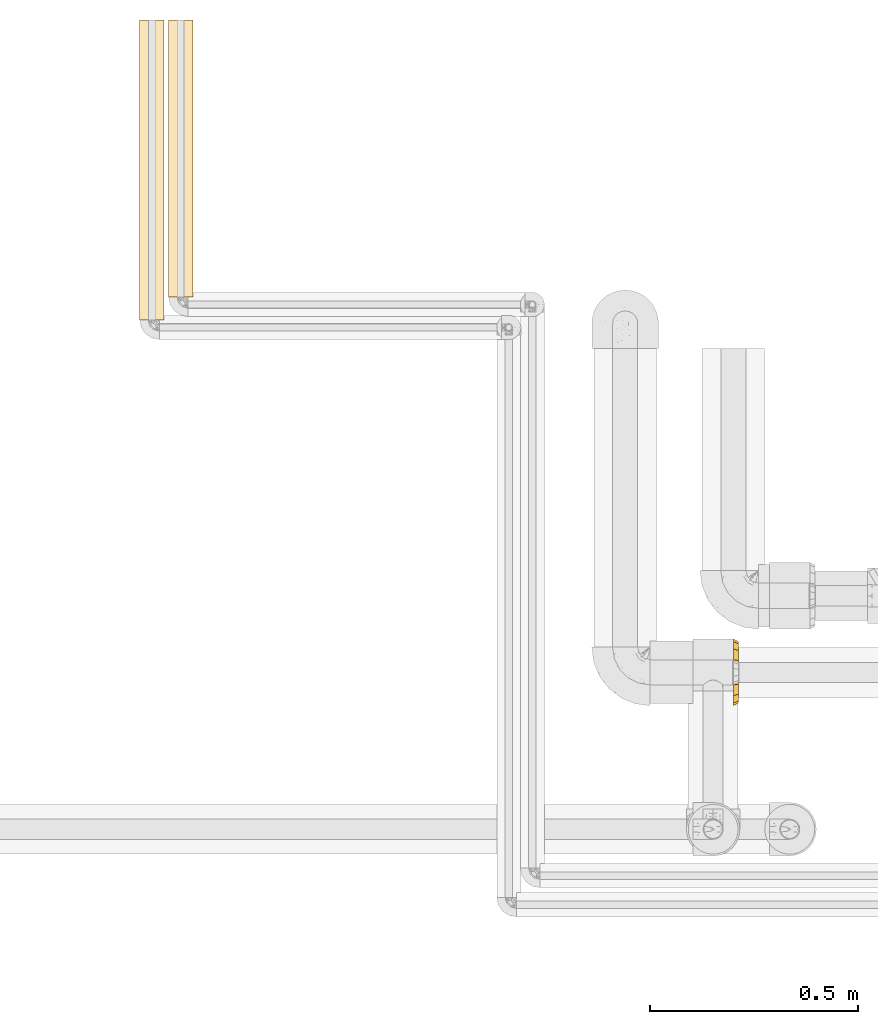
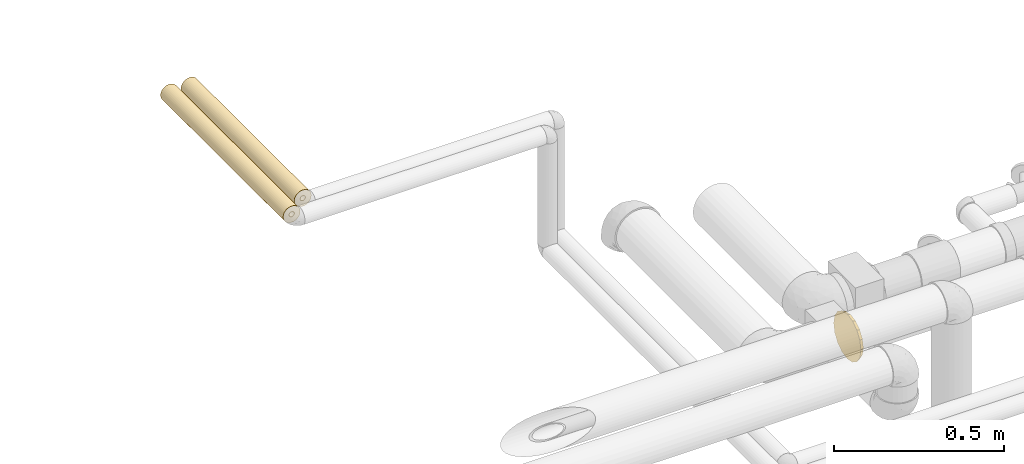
# One storey, part 22 of 83: 3 coverings.
"""IFC2X3 building model written with IfcOpenShell, lengths in millimetres."""

from ifc_helpers import new_model, entity, si_unit, converted_unit, derived_unit, direction, frame, origin_with_axes, place, context, subcontext, project, spatial, open_shell, faceted_brep, surface_model, source, transform, mapped, element, save


model = new_model("IFC2X3")

# Units and contexts
model_context = context("Model", 3, precision=0.01, world=frame((0.0, 4.29681676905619e-09, 0.0)), true_north=direction((4.01073788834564e-13, 1.0)))
plan_context = context("Plan", 3, precision=0.01, world=frame((0.0, 4.29681676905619e-09, 0.0)), true_north=direction((4.01073788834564e-13, 1.0)))
body_context = subcontext(model_context, "Body", "Model", "MODEL_VIEW")
ifc_project = project(units=[converted_unit("PLANEANGLEUNIT", "DEGREE", entity("IfcPositiveLengthMeasure", 0.0174532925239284), si_unit("PLANEANGLEUNIT", "RADIAN"), dimensions=[0, 0, 0, 0, 0, 0, 0]), si_unit("AREAUNIT", "SQUARE_METRE"), si_unit("LENGTHUNIT", "METRE", prefix="MILLI"), si_unit("MASSUNIT", "GRAM", prefix="KILO"), si_unit("POWERUNIT", "WATT"), si_unit("PRESSUREUNIT", "PASCAL"), si_unit("FORCEUNIT", "NEWTON", prefix="KILO"), si_unit("ELECTRICVOLTAGEUNIT", "VOLT"), si_unit("ELECTRICCURRENTUNIT", "AMPERE"), si_unit("THERMODYNAMICTEMPERATUREUNIT", "DEGREE_CELSIUS"), si_unit("TIMEUNIT", "SECOND"), si_unit("VOLUMEUNIT", "CUBIC_METRE"), derived_unit("LINEARVELOCITYUNIT", [(si_unit("LENGTHUNIT", "METRE"), 1), (si_unit("TIMEUNIT", "SECOND"), -1)]), derived_unit("VOLUMETRICFLOWRATEUNIT", [(si_unit("VOLUMEUNIT", "CUBIC_METRE"), 1), (si_unit("TIMEUNIT", "SECOND"), -1)]), derived_unit("THERMALTRANSMITTANCEUNIT", [(si_unit("POWERUNIT", "WATT"), 1), (si_unit("THERMODYNAMICTEMPERATUREUNIT", "KELVIN"), -1), (si_unit("AREAUNIT", "SQUARE_METRE"), -1)]), derived_unit("SOUNDPRESSUREUNIT", [(si_unit("PRESSUREUNIT", "PASCAL"), 1)])], contexts=[model_context, plan_context])

# Site, building, storey
site_placement = place(None, frame((0.0, -4.29681676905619e-09, 0.0), z_axis=(0.0, 0.0, 1.0), x_axis=(1.0, 0.0, 0.0)))
site = spatial("IfcSite", under=ifc_project, at=site_placement, Name="ENGM", CompositionType="ELEMENT")
building_placement = place(site_placement, frame((0.0, 4.29681676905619e-09, 0.0), z_axis=(0.0, 0.0, 1.0), x_axis=(1.0, 0.0, 0.0)))
building = spatial("IfcBuilding", under=site, at=building_placement, Name="TI", CompositionType="ELEMENT")
storey_placement = place(building_placement, frame((0.0, 0.0, 204000.0), z_axis=(0.0, 0.0, 1.0), x_axis=(1.0, 0.0, 0.0)))
storey = spatial("IfcBuildingStorey", under=building, at=storey_placement, Name="Nivå D", CompositionType="ELEMENT", Elevation=204000.0)

# Coverings
shared_shape = source(origin_with_axes(), body_context, "Body", "SurfaceModel", [
    surface_model("IfcShellBasedSurfaceModel", [(0.0, -74.09514, -30.69121), (0.0, 30.69121, -74.09514), (0.0, -56.70997, -56.70997), (12.0, -28.39511, -68.55186), (12.0, 0.0, -74.2), (12.0, -52.46732, -52.46732), (12.0, 68.55186, -28.39511), (12.0, 74.2, 0.0), (12.0, 52.46732, -52.46732), (0.0, 30.69121, 74.09514), (12.0, 17.95943, 70.62765), (12.0, 28.39511, 68.55186), (12.0, 0.0, 74.2), (0.0, 15.34561, 77.14757), (0.0, 0.0, 80.2), (12.0, 52.46732, 52.46732), (0.0, 43.70059, 65.40255), (12.0, 40.43122, 60.50959), (12.0, 68.55186, 28.39511), (0.0, 65.40255, 43.70059), (12.0, 60.50959, 40.43122), (12.0, 71.37593, 14.19755), (0.0, 80.2, 0.0), (0.0, 76.33878, 19.41167), (0.0, 56.70997, 56.70997), (0.0, 74.09514, 30.69121), (0.0, -74.09514, 30.69121), (12.0, -70.62765, 17.95943), (12.0, -68.55186, 28.39511), (12.0, -74.2, 0.0), (0.0, -77.14757, 15.34561), (0.0, -80.2, 0.0), (12.0, -52.46732, 52.46732), (0.0, -65.40255, 43.70059), (12.0, -60.50959, 40.43122), (12.0, -28.39511, 68.55186), (0.0, -43.70059, 65.40255), (12.0, -40.43122, 60.50959), (12.0, -14.19755, 71.37593), (0.0, -19.41167, 76.33878), (0.0, -56.70997, 56.70997), (0.0, -30.69121, 74.09514), (0.0, -30.69121, -74.09514), (12.0, -17.95943, -70.62765), (0.0, -15.34561, -77.14757), (0.0, 0.0, -80.2), (0.0, -43.70059, -65.40255), (12.0, -40.43122, -60.50959), (12.0, -68.55186, -28.39511), (0.0, -65.40255, -43.70059), (12.0, -60.50959, -40.43122), (12.0, -71.37593, -14.19755), (0.0, -76.33878, -19.41167), (0.0, 74.09514, -30.69121), (12.0, 70.62765, -17.95943), (0.0, 77.14757, -15.34561), (0.0, 65.40255, -43.70059), (12.0, 60.50959, -40.43122), (12.0, 28.39511, -68.55186), (0.0, 43.70059, -65.40255), (12.0, 40.43122, -60.50959), (12.0, 14.19755, -71.37593), (0.0, 19.41167, -76.33878), (0.0, 56.70997, -56.70997)], [open_shell([[[0, 1, 2]], [[3, 4, 5]], [[6, 7, 8]], [[9, 10, 11]], [[12, 13, 14]], [[15, 16, 17]], [[9, 11, 17]], [[12, 10, 13]], [[18, 19, 20]], [[21, 7, 22]], [[23, 18, 21]], [[15, 24, 16]], [[20, 19, 24]], [[18, 23, 25]], [[10, 9, 13]], [[22, 23, 21]], [[18, 25, 19]], [[24, 15, 20]], [[9, 17, 16]], [[26, 27, 28]], [[29, 30, 31]], [[32, 33, 34]], [[26, 28, 34]], [[29, 27, 30]], [[35, 36, 37]], [[38, 12, 14]], [[39, 35, 38]], [[32, 40, 33]], [[37, 36, 40]], [[35, 39, 41]], [[27, 26, 30]], [[14, 39, 38]], [[35, 41, 36]], [[40, 32, 37]], [[26, 34, 33]], [[42, 43, 3]], [[4, 44, 45]], [[5, 46, 47]], [[42, 3, 47]], [[4, 43, 44]], [[48, 49, 50]], [[51, 29, 31]], [[52, 48, 51]], [[5, 2, 46]], [[50, 49, 2]], [[48, 52, 0]], [[43, 42, 44]], [[31, 52, 51]], [[48, 0, 49]], [[2, 5, 50]], [[42, 47, 46]], [[53, 54, 6]], [[7, 55, 22]], [[8, 56, 57]], [[53, 6, 57]], [[7, 54, 55]], [[58, 59, 60]], [[61, 4, 45]], [[62, 58, 61]], [[8, 63, 56]], [[60, 59, 63]], [[58, 62, 1]], [[54, 53, 55]], [[45, 62, 61]], [[58, 1, 59]], [[63, 8, 60]], [[53, 57, 56]], [[35, 32, 29]], [[11, 12, 15]], [[28, 29, 32]], [[0, 40, 41]], [[0, 26, 40]], [[35, 29, 12]], [[18, 15, 12]], [[41, 14, 9]], [[0, 31, 26]], [[18, 12, 7]], [[12, 29, 4]], [[48, 5, 4]], [[4, 7, 12]], [[58, 8, 7]], [[7, 4, 58]], [[4, 29, 48]], [[41, 25, 1]], [[53, 63, 25]], [[1, 25, 63]], [[1, 0, 41]], [[22, 53, 25]], [[9, 24, 41]], [[25, 41, 24]], [[2, 1, 42]], [[1, 45, 42]]])]),
])
covering_1_placement = place(storey_placement, frame((608617.17351, 697908.0, 5915.24411), z_axis=(0.0, 0.0, 1.0), x_axis=(1.0, 0.0, 0.0)))
element("IfcCovering", 1, at=covering_1_placement, inside=storey, Name="BI11T - Rørskål m/Al.folie - varme 60-25", PredefinedType="INSULATION", context=body_context, shape_type="MappedRepresentation", body=[
    mapped(shared_shape, transform((0.0, 0.0, 0.0), scale=1.0)),
])
covering_2_placement = place(storey_placement, frame((607289.38671, 703151.51267, 6330.0), z_axis=(0.0, 0.0, 1.0), x_axis=(0.0, -1.0, 0.0)))
element("IfcCovering", 2, at=covering_2_placement, inside=storey, Name="BI10T - Cellegummi 18-32 mm kalde rør", PredefinedType="INSULATION", context=body_context, shape_type="Brep", body=[
    faceted_brep([(3676.01267000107, 8.86326977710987, -1.56283359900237), (3676.01267000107, 9.0, 0.0), (4341.7, 9.0, 0.0), (4341.7, 8.86326977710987, -1.56283359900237), (3676.01267000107, 8.45723358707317, -3.07818128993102), (4341.7, 8.45723358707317, -3.07818128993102), (3676.01267000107, 7.79422863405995, -4.5), (4341.7, 7.79422863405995, -4.5), (3676.01267000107, 6.8943999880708, -5.78508848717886), (4341.7, 6.8943999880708, -5.78508848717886), (3676.01267000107, 5.78508848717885, -6.8943999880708), (4341.7, 5.78508848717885, -6.8943999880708), (3676.01267000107, 4.5, -7.79422863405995), (4341.7, 4.5, -7.79422863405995), (3676.01267000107, 3.07818128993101, -8.45723358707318), (4341.7, 3.07818128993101, -8.45723358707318), (3676.01267000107, 1.56283359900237, -8.86326977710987), (4341.7, 1.56283359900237, -8.86326977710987), (3676.01267000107, -1.65327317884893e-15, -9.0), (4341.7, -1.65327317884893e-15, -9.0), (3676.01267000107, -1.56283359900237, -8.86326977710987), (4341.7, -1.56283359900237, -8.86326977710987), (3676.01267000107, -3.07818128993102, -8.45723358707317), (4341.7, -3.07818128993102, -8.45723358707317), (3676.01267000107, -4.5, -7.79422863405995), (4341.7, -4.5, -7.79422863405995), (3676.01267000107, -5.78508848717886, -6.8943999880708), (4341.7, -5.78508848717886, -6.8943999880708), (3676.01267000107, -6.8943999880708, -5.78508848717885), (4341.7, -6.8943999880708, -5.78508848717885), (3676.01267000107, -7.79422863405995, -4.5), (4341.7, -7.79422863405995, -4.5), (3676.01267000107, -8.45723358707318, -3.07818128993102), (4341.7, -8.45723358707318, -3.07818128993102), (3676.01267000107, -8.86326977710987, -1.56283359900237), (4341.7, -8.86326977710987, -1.56283359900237), (3676.01267000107, -9.0, 1.10218211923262e-15), (4341.7, -9.0, 1.10218211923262e-15), (3676.01267000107, -8.86326977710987, 1.56283359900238), (4341.7, -8.86326977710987, 1.56283359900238), (3676.01267000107, -8.45723358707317, 3.07818128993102), (4341.7, -8.45723358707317, 3.07818128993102), (3676.01267000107, -7.79422863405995, 4.5), (4341.7, -7.79422863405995, 4.5), (3676.01267000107, -6.8943999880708, 5.78508848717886), (4341.7, -6.8943999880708, 5.78508848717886), (3676.01267000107, -5.78508848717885, 6.8943999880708), (4341.7, -5.78508848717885, 6.8943999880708), (3676.01267000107, -4.5, 7.79422863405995), (4341.7, -4.5, 7.79422863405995), (3676.01267000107, -3.07818128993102, 8.45723358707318), (4341.7, -3.07818128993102, 8.45723358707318), (3676.01267000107, -1.56283359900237, 8.86326977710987), (4341.7, -1.56283359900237, 8.86326977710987), (3676.01267000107, 5.51091059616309e-16, 9.0), (4341.7, 5.51091059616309e-16, 9.0), (3676.01267000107, 1.56283359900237, 8.86326977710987), (4341.7, 1.56283359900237, 8.86326977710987), (3676.01267000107, 3.07818128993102, 8.45723358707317), (4341.7, 3.07818128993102, 8.45723358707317), (3676.01267000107, 4.5, 7.79422863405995), (4341.7, 4.5, 7.79422863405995), (3676.01267000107, 5.78508848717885, 6.8943999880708), (4341.7, 5.78508848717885, 6.8943999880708), (3676.01267000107, 6.8943999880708, 5.78508848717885), (4341.7, 6.8943999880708, 5.78508848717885), (3676.01267000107, 7.79422863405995, 4.5), (4341.7, 7.79422863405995, 4.5), (3676.01267000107, 8.45723358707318, 3.07818128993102), (4341.7, 8.45723358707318, 3.07818128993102), (3676.01267000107, 8.86326977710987, 1.56283359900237), (4341.7, 8.86326977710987, 1.56283359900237), (3676.01267000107, 29.0, 0.0), (3676.01267000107, 28.559424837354, -5.03579715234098), (4341.7, 28.559424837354, -5.03579715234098), (4341.7, 29.0, 0.0), (3676.01267000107, 28.559424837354, 5.03579715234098), (4341.7, 28.559424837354, 5.03579715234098), (3676.01267000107, 27.2510860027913, 9.91858415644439), (4341.7, 27.2510860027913, 9.91858415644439), (3676.01267000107, 25.1147367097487, 14.5), (4341.7, 25.1147367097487, 14.5), (3676.01267000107, 22.2152888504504, 18.6408406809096), (4341.7, 22.2152888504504, 18.6408406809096), (3676.01267000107, 18.6408406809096, 22.2152888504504), (4341.7, 18.6408406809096, 22.2152888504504), (3676.01267000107, 14.5, 25.1147367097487), (4341.7, 14.5, 25.1147367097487), (3676.01267000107, 9.9185841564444, 27.2510860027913), (4341.7, 9.9185841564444, 27.2510860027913), (3676.01267000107, 5.03579715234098, 28.559424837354), (4341.7, 5.03579715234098, 28.559424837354), (3676.01267000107, 1.77573785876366e-15, 29.0), (4341.7, 1.77573785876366e-15, 29.0), (3676.01267000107, -5.03579715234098, 28.559424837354), (4341.7, -5.03579715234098, 28.559424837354), (3676.01267000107, -9.91858415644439, 27.2510860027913), (4341.7, -9.91858415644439, 27.2510860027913), (3676.01267000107, -14.5, 25.1147367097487), (4341.7, -14.5, 25.1147367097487), (3676.01267000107, -18.6408406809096, 22.2152888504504), (4341.7, -18.6408406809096, 22.2152888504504), (3676.01267000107, -22.2152888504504, 18.6408406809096), (4341.7, -22.2152888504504, 18.6408406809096), (3676.01267000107, -25.1147367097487, 14.5), (4341.7, -25.1147367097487, 14.5), (3676.01267000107, -27.2510860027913, 9.9185841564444), (4341.7, -27.2510860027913, 9.9185841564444), (3676.01267000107, -28.559424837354, 5.03579715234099), (4341.7, -28.559424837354, 5.03579715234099), (3676.01267000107, -29.0, 3.55147571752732e-15), (4341.7, -29.0, 3.55147571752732e-15), (3676.01267000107, -28.559424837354, -5.03579715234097), (4341.7, -28.559424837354, -5.03579715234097), (3676.01267000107, -27.2510860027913, -9.91858415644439), (4341.7, -27.2510860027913, -9.91858415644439), (3676.01267000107, -25.1147367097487, -14.5), (4341.7, -25.1147367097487, -14.5), (3676.01267000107, -22.2152888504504, -18.6408406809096), (4341.7, -22.2152888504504, -18.6408406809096), (3676.01267000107, -18.6408406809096, -22.2152888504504), (4341.7, -18.6408406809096, -22.2152888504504), (3676.01267000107, -14.5, -25.1147367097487), (4341.7, -14.5, -25.1147367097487), (3676.01267000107, -9.91858415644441, -27.2510860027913), (4341.7, -9.91858415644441, -27.2510860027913), (3676.01267000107, -5.03579715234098, -28.559424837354), (4341.7, -5.03579715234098, -28.559424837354), (3676.01267000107, -5.32721357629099e-15, -29.0), (4341.7, -5.32721357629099e-15, -29.0), (3676.01267000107, 5.03579715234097, -28.559424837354), (4341.7, 5.03579715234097, -28.559424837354), (3676.01267000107, 9.91858415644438, -27.2510860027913), (4341.7, 9.91858415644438, -27.2510860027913), (3676.01267000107, 14.5, -25.1147367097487), (4341.7, 14.5, -25.1147367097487), (3676.01267000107, 18.6408406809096, -22.2152888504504), (4341.7, 18.6408406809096, -22.2152888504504), (3676.01267000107, 22.2152888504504, -18.6408406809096), (4341.7, 22.2152888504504, -18.6408406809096), (3676.01267000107, 25.1147367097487, -14.5), (4341.7, 25.1147367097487, -14.5), (3676.01267000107, 27.2510860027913, -9.91858415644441), (4341.7, 27.2510860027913, -9.91858415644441)], [[[0, 1, 2, 3]], [[4, 0, 3, 5]], [[6, 4, 5, 7]], [[8, 6, 7, 9]], [[10, 8, 9, 11]], [[12, 10, 11, 13]], [[14, 12, 13, 15]], [[16, 14, 15, 17]], [[18, 16, 17, 19]], [[20, 18, 19, 21]], [[22, 20, 21, 23]], [[24, 22, 23, 25]], [[26, 24, 25, 27]], [[28, 26, 27, 29]], [[30, 28, 29, 31]], [[32, 30, 31, 33]], [[34, 32, 33, 35]], [[36, 34, 35, 37]], [[38, 36, 37, 39]], [[40, 38, 39, 41]], [[42, 40, 41, 43]], [[44, 42, 43, 45]], [[46, 44, 45, 47]], [[48, 46, 47, 49]], [[50, 48, 49, 51]], [[52, 50, 51, 53]], [[54, 52, 53, 55]], [[56, 54, 55, 57]], [[58, 56, 57, 59]], [[60, 58, 59, 61]], [[62, 60, 61, 63]], [[64, 62, 63, 65]], [[66, 64, 65, 67]], [[68, 66, 67, 69]], [[70, 68, 69, 71]], [[1, 70, 71, 2]], [[72, 73, 74, 75]], [[76, 72, 75, 77]], [[78, 76, 77, 79]], [[80, 78, 79, 81]], [[82, 80, 81, 83]], [[84, 82, 83, 85]], [[86, 84, 85, 87]], [[88, 86, 87, 89]], [[90, 88, 89, 91]], [[92, 90, 91, 93]], [[94, 92, 93, 95]], [[96, 94, 95, 97]], [[98, 96, 97, 99]], [[100, 98, 99, 101]], [[102, 100, 101, 103]], [[104, 102, 103, 105]], [[106, 104, 105, 107]], [[108, 106, 107, 109]], [[110, 108, 109, 111]], [[112, 110, 111, 113]], [[114, 112, 113, 115]], [[116, 114, 115, 117]], [[118, 116, 117, 119]], [[120, 118, 119, 121]], [[122, 120, 121, 123]], [[124, 122, 123, 125]], [[126, 124, 125, 127]], [[128, 126, 127, 129]], [[130, 128, 129, 131]], [[132, 130, 131, 133]], [[134, 132, 133, 135]], [[136, 134, 135, 137]], [[138, 136, 137, 139]], [[140, 138, 139, 141]], [[142, 140, 141, 143]], [[73, 142, 143, 74]], [[75, 74, 143, 141, 139, 137, 135, 133, 131, 129, 127, 125, 123, 121, 119, 117, 115, 113, 111, 109, 107, 105, 103, 101, 99, 97, 95, 93, 91, 89, 87, 85, 83, 81, 79, 77], [2, 71, 69, 67, 65, 63, 61, 59, 57, 55, 53, 51, 49, 47, 45, 43, 41, 39, 37, 35, 33, 31, 29, 27, 25, 23, 21, 19, 17, 15, 13, 11, 9, 7, 5, 3]], [[76, 78, 80, 82, 84, 86, 88, 90, 92, 94, 96, 98, 100, 102, 104, 106, 108, 110, 112, 114, 116, 118, 120, 122, 124, 126, 128, 130, 132, 134, 136, 138, 140, 142, 73, 72], [4, 6, 8, 10, 12, 14, 16, 18, 20, 22, 24, 26, 28, 30, 32, 34, 36, 38, 40, 42, 44, 46, 48, 50, 52, 54, 56, 58, 60, 62, 64, 66, 68, 70, 1, 0]]], orient=[[False], [False], [False], [False], [False], [False], [False], [False], [False], [False], [False], [False], [False], [False], [False], [False], [False], [False], [False], [False], [False], [False], [False], [False], [False], [False], [False], [False], [False], [False], [False], [False], [False], [False], [False], [False], [False], [False], [False], [False], [False], [False], [False], [False], [False], [False], [False], [False], [False], [False], [False], [False], [False], [False], [False], [False], [False], [False], [False], [False], [False], [False], [False], [False], [False], [False], [False], [False], [False], [False], [False], [False], [False, False], [False, False]]),
])
covering_3_placement = place(storey_placement, frame((607219.88671, 703093.7695, 6330.0), z_axis=(0.0, 0.0, 1.0), x_axis=(0.0, -1.0, 0.0)))
element("IfcCovering", 3, at=covering_3_placement, inside=storey, Name="BI10T - Cellegummi 18-32 mm kalde rør", PredefinedType="INSULATION", context=body_context, shape_type="Brep", body=[
    faceted_brep([(3618.26950000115, 8.86326977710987, -1.56283359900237), (3618.26950000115, 9.0, 0.0), (4339.0, 9.0, 0.0), (4339.0, 8.86326977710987, -1.56283359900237), (3618.26950000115, 8.45723358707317, -3.07818128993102), (4339.0, 8.45723358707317, -3.07818128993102), (3618.26950000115, 7.79422863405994, -4.5), (4339.0, 7.79422863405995, -4.5), (3618.26950000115, 6.8943999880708, -5.78508848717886), (4339.0, 6.8943999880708, -5.78508848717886), (3618.26950000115, 5.78508848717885, -6.8943999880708), (4339.0, 5.78508848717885, -6.8943999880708), (3618.26950000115, 4.5, -7.79422863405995), (4339.0, 4.5, -7.79422863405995), (3618.26950000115, 3.07818128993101, -8.45723358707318), (4339.0, 3.07818128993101, -8.45723358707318), (3618.26950000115, 1.56283359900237, -8.86326977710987), (4339.0, 1.56283359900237, -8.86326977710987), (3618.26950000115, -1.65327317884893e-15, -9.0), (4339.0, -1.65327317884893e-15, -9.0), (3618.26950000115, -1.56283359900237, -8.86326977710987), (4339.0, -1.56283359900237, -8.86326977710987), (3618.26950000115, -3.07818128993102, -8.45723358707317), (4339.0, -3.07818128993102, -8.45723358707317), (3618.26950000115, -4.5, -7.79422863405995), (4339.0, -4.5, -7.79422863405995), (3618.26950000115, -5.78508848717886, -6.8943999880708), (4339.0, -5.78508848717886, -6.8943999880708), (3618.26950000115, -6.8943999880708, -5.78508848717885), (4339.0, -6.8943999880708, -5.78508848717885), (3618.26950000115, -7.79422863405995, -4.5), (4339.0, -7.79422863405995, -4.5), (3618.26950000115, -8.45723358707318, -3.07818128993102), (4339.0, -8.45723358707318, -3.07818128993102), (3618.26950000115, -8.86326977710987, -1.56283359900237), (4339.0, -8.86326977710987, -1.56283359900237), (3618.26950000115, -9.0, 1.10218211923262e-15), (4339.0, -9.0, 1.10218211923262e-15), (3618.26950000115, -8.86326977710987, 1.56283359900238), (4339.0, -8.86326977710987, 1.56283359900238), (3618.26950000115, -8.45723358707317, 3.07818128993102), (4339.0, -8.45723358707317, 3.07818128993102), (3618.26950000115, -7.79422863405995, 4.5), (4339.0, -7.79422863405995, 4.5), (3618.26950000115, -6.8943999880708, 5.78508848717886), (4339.0, -6.8943999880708, 5.78508848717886), (3618.26950000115, -5.78508848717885, 6.8943999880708), (4339.0, -5.78508848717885, 6.8943999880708), (3618.26950000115, -4.5, 7.79422863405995), (4339.0, -4.5, 7.79422863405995), (3618.26950000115, -3.07818128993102, 8.45723358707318), (4339.0, -3.07818128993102, 8.45723358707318), (3618.26950000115, -1.56283359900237, 8.86326977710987), (4339.0, -1.56283359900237, 8.86326977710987), (3618.26950000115, 5.51091059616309e-16, 9.0), (4339.0, 5.51091059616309e-16, 9.0), (3618.26950000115, 1.56283359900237, 8.86326977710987), (4339.0, 1.56283359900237, 8.86326977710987), (3618.26950000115, 3.07818128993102, 8.45723358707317), (4339.0, 3.07818128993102, 8.45723358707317), (3618.26950000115, 4.5, 7.79422863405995), (4339.0, 4.5, 7.79422863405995), (3618.26950000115, 5.78508848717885, 6.8943999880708), (4339.0, 5.78508848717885, 6.8943999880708), (3618.26950000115, 6.8943999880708, 5.78508848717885), (4339.0, 6.8943999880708, 5.78508848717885), (3618.26950000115, 7.79422863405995, 4.5), (4339.0, 7.79422863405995, 4.5), (3618.26950000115, 8.45723358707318, 3.07818128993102), (4339.0, 8.45723358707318, 3.07818128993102), (3618.26950000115, 8.86326977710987, 1.56283359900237), (4339.0, 8.86326977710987, 1.56283359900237), (3618.26950000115, 29.0, 0.0), (3618.26950000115, 28.559424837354, -5.03579715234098), (4339.0, 28.559424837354, -5.03579715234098), (4339.0, 29.0, 0.0), (3618.26950000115, 28.559424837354, 5.03579715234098), (4339.0, 28.559424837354, 5.03579715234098), (3618.26950000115, 27.2510860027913, 9.91858415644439), (4339.0, 27.2510860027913, 9.91858415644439), (3618.26950000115, 25.1147367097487, 14.5), (4339.0, 25.1147367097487, 14.5), (3618.26950000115, 22.2152888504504, 18.6408406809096), (4339.0, 22.2152888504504, 18.6408406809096), (3618.26950000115, 18.6408406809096, 22.2152888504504), (4339.0, 18.6408406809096, 22.2152888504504), (3618.26950000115, 14.5, 25.1147367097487), (4339.0, 14.5, 25.1147367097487), (3618.26950000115, 9.9185841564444, 27.2510860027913), (4339.0, 9.9185841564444, 27.2510860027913), (3618.26950000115, 5.03579715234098, 28.559424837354), (4339.0, 5.03579715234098, 28.559424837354), (3618.26950000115, 1.77573785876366e-15, 29.0), (4339.0, 1.77573785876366e-15, 29.0), (3618.26950000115, -5.03579715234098, 28.559424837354), (4339.0, -5.03579715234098, 28.559424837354), (3618.26950000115, -9.91858415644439, 27.2510860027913), (4339.0, -9.91858415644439, 27.2510860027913), (3618.26950000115, -14.5, 25.1147367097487), (4339.0, -14.5, 25.1147367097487), (3618.26950000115, -18.6408406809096, 22.2152888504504), (4339.0, -18.6408406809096, 22.2152888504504), (3618.26950000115, -22.2152888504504, 18.6408406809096), (4339.0, -22.2152888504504, 18.6408406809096), (3618.26950000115, -25.1147367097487, 14.5), (4339.0, -25.1147367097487, 14.5), (3618.26950000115, -27.2510860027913, 9.9185841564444), (4339.0, -27.2510860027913, 9.9185841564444), (3618.26950000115, -28.559424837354, 5.03579715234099), (4339.0, -28.559424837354, 5.03579715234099), (3618.26950000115, -29.0, 3.55147571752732e-15), (4339.0, -29.0, 3.55147571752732e-15), (3618.26950000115, -28.559424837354, -5.03579715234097), (4339.0, -28.559424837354, -5.03579715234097), (3618.26950000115, -27.2510860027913, -9.91858415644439), (4339.0, -27.2510860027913, -9.91858415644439), (3618.26950000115, -25.1147367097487, -14.5), (4339.0, -25.1147367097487, -14.5), (3618.26950000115, -22.2152888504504, -18.6408406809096), (4339.0, -22.2152888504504, -18.6408406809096), (3618.26950000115, -18.6408406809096, -22.2152888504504), (4339.0, -18.6408406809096, -22.2152888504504), (3618.26950000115, -14.5, -25.1147367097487), (4339.0, -14.5, -25.1147367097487), (3618.26950000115, -9.91858415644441, -27.2510860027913), (4339.0, -9.91858415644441, -27.2510860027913), (3618.26950000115, -5.03579715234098, -28.559424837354), (4339.0, -5.03579715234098, -28.559424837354), (3618.26950000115, -5.32721357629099e-15, -29.0), (4339.0, -5.32721357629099e-15, -29.0), (3618.26950000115, 5.03579715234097, -28.559424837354), (4339.0, 5.03579715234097, -28.559424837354), (3618.26950000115, 9.91858415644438, -27.2510860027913), (4339.0, 9.91858415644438, -27.2510860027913), (3618.26950000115, 14.5, -25.1147367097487), (4339.0, 14.5, -25.1147367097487), (3618.26950000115, 18.6408406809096, -22.2152888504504), (4339.0, 18.6408406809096, -22.2152888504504), (3618.26950000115, 22.2152888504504, -18.6408406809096), (4339.0, 22.2152888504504, -18.6408406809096), (3618.26950000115, 25.1147367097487, -14.5), (4339.0, 25.1147367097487, -14.5), (3618.26950000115, 27.2510860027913, -9.91858415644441), (4339.0, 27.2510860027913, -9.91858415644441)], [[[0, 1, 2, 3]], [[4, 0, 3, 5]], [[6, 4, 5, 7]], [[8, 6, 7, 9]], [[10, 8, 9, 11]], [[12, 10, 11, 13]], [[14, 12, 13, 15]], [[16, 14, 15, 17]], [[18, 16, 17, 19]], [[20, 18, 19, 21]], [[22, 20, 21, 23]], [[24, 22, 23, 25]], [[26, 24, 25, 27]], [[28, 26, 27, 29]], [[30, 28, 29, 31]], [[32, 30, 31, 33]], [[34, 32, 33, 35]], [[36, 34, 35, 37]], [[38, 36, 37, 39]], [[40, 38, 39, 41]], [[42, 40, 41, 43]], [[44, 42, 43, 45]], [[46, 44, 45, 47]], [[48, 46, 47, 49]], [[50, 48, 49, 51]], [[52, 50, 51, 53]], [[54, 52, 53, 55]], [[56, 54, 55, 57]], [[58, 56, 57, 59]], [[60, 58, 59, 61]], [[62, 60, 61, 63]], [[64, 62, 63, 65]], [[66, 64, 65, 67]], [[68, 66, 67, 69]], [[70, 68, 69, 71]], [[1, 70, 71, 2]], [[72, 73, 74, 75]], [[76, 72, 75, 77]], [[78, 76, 77, 79]], [[80, 78, 79, 81]], [[82, 80, 81, 83]], [[84, 82, 83, 85]], [[86, 84, 85, 87]], [[88, 86, 87, 89]], [[90, 88, 89, 91]], [[92, 90, 91, 93]], [[94, 92, 93, 95]], [[96, 94, 95, 97]], [[98, 96, 97, 99]], [[100, 98, 99, 101]], [[102, 100, 101, 103]], [[104, 102, 103, 105]], [[106, 104, 105, 107]], [[108, 106, 107, 109]], [[110, 108, 109, 111]], [[112, 110, 111, 113]], [[114, 112, 113, 115]], [[116, 114, 115, 117]], [[118, 116, 117, 119]], [[120, 118, 119, 121]], [[122, 120, 121, 123]], [[124, 122, 123, 125]], [[126, 124, 125, 127]], [[128, 126, 127, 129]], [[130, 128, 129, 131]], [[132, 130, 131, 133]], [[134, 132, 133, 135]], [[136, 134, 135, 137]], [[138, 136, 137, 139]], [[140, 138, 139, 141]], [[142, 140, 141, 143]], [[73, 142, 143, 74]], [[75, 74, 143, 141, 139, 137, 135, 133, 131, 129, 127, 125, 123, 121, 119, 117, 115, 113, 111, 109, 107, 105, 103, 101, 99, 97, 95, 93, 91, 89, 87, 85, 83, 81, 79, 77], [2, 71, 69, 67, 65, 63, 61, 59, 57, 55, 53, 51, 49, 47, 45, 43, 41, 39, 37, 35, 33, 31, 29, 27, 25, 23, 21, 19, 17, 15, 13, 11, 9, 7, 5, 3]], [[76, 78, 80, 82, 84, 86, 88, 90, 92, 94, 96, 98, 100, 102, 104, 106, 108, 110, 112, 114, 116, 118, 120, 122, 124, 126, 128, 130, 132, 134, 136, 138, 140, 142, 73, 72], [4, 6, 8, 10, 12, 14, 16, 18, 20, 22, 24, 26, 28, 30, 32, 34, 36, 38, 40, 42, 44, 46, 48, 50, 52, 54, 56, 58, 60, 62, 64, 66, 68, 70, 1, 0]]], orient=[[False], [False], [False], [False], [False], [False], [False], [False], [False], [False], [False], [False], [False], [False], [False], [False], [False], [False], [False], [False], [False], [False], [False], [False], [False], [False], [False], [False], [False], [False], [False], [False], [False], [False], [False], [False], [False], [False], [False], [False], [False], [False], [False], [False], [False], [False], [False], [False], [False], [False], [False], [False], [False], [False], [False], [False], [False], [False], [False], [False], [False], [False], [False], [False], [False], [False], [False], [False], [False], [False], [False], [False], [False, False], [False, False]]),
])

save(model, "model.ifc")
